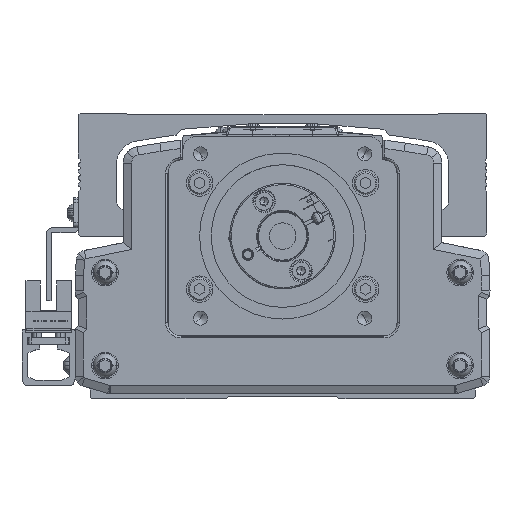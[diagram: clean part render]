
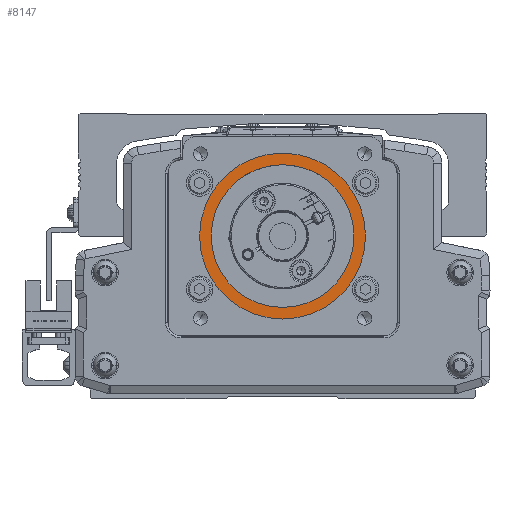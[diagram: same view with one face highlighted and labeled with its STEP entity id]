
A CAD part, front view. The second image highlights one B-rep face of the part: STEP entity #8147.
In plain terms, the highlighted planar face has unit normal (0, -1, 0).
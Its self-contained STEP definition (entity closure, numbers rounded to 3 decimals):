
#8147=ADVANCED_FACE('',(#17897,#17898),#17899,.T.);
#17897=FACE_BOUND('',#30779,.T.);
#17898=FACE_OUTER_BOUND('',#30780,.T.);
#17899=PLANE('',#30781);
#30779=EDGE_LOOP('',(#55091,#55092));
#30780=EDGE_LOOP('',(#55093,#55094));
#30781=AXIS2_PLACEMENT_3D('',#55095,#55096,#55097);
#55091=ORIENTED_EDGE('',*,*,#79185,.F.);
#55092=ORIENTED_EDGE('',*,*,#72499,.F.);
#55093=ORIENTED_EDGE('',*,*,#73676,.F.);
#55094=ORIENTED_EDGE('',*,*,#71300,.F.);
#55095=CARTESIAN_POINT('',(-300.,-235.778,0.));
#55096=DIRECTION('',(0.,-1.0,0.));
#55097=DIRECTION('',(1.0,0.,0.));
#71300=EDGE_CURVE('',#85305,#85303,#85307,.T.);
#72499=EDGE_CURVE('',#87360,#87356,#87362,.T.);
#73676=EDGE_CURVE('',#85303,#85305,#89279,.T.);
#79185=EDGE_CURVE('',#87356,#87360,#97426,.T.);
#85303=VERTEX_POINT('',#105032);
#85305=VERTEX_POINT('',#105035);
#85307=CIRCLE('',#105038,25.0);
#87356=VERTEX_POINT('',#108020);
#87360=VERTEX_POINT('',#108025);
#87362=CIRCLE('',#108028,21.5);
#89279=CIRCLE('',#110720,25.0);
#97426=CIRCLE('',#122650,21.5);
#105032=CARTESIAN_POINT('',(-275.,-235.778,0.));
#105035=CARTESIAN_POINT('',(-325.,-235.778,0.));
#105038=AXIS2_PLACEMENT_3D('',#130413,#130414,#130415);
#108020=CARTESIAN_POINT('',(-278.5,-235.778,0.));
#108025=CARTESIAN_POINT('',(-321.5,-235.778,0.));
#108028=AXIS2_PLACEMENT_3D('',#132013,#132014,#132015);
#110720=AXIS2_PLACEMENT_3D('',#133591,#133592,#133593);
#122650=AXIS2_PLACEMENT_3D('',#140696,#140697,#140698);
#130413=CARTESIAN_POINT('',(-300.,-235.778,0.));
#130414=DIRECTION('',(0.,1.0,0.));
#130415=DIRECTION('',(1.0,0.,0.));
#132013=CARTESIAN_POINT('',(-300.,-235.778,0.));
#132014=DIRECTION('',(0.,-1.0,0.));
#132015=DIRECTION('',(1.0,0.,0.));
#133591=CARTESIAN_POINT('',(-300.,-235.778,0.));
#133592=DIRECTION('',(0.,1.0,0.));
#133593=DIRECTION('',(1.0,0.,0.));
#140696=CARTESIAN_POINT('',(-300.,-235.778,0.));
#140697=DIRECTION('',(0.,-1.0,0.));
#140698=DIRECTION('',(1.0,0.,0.));
